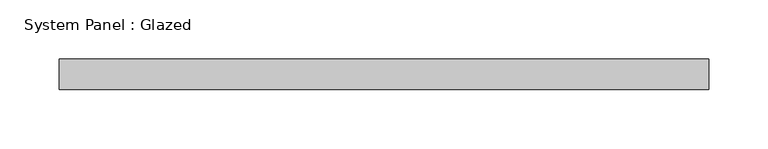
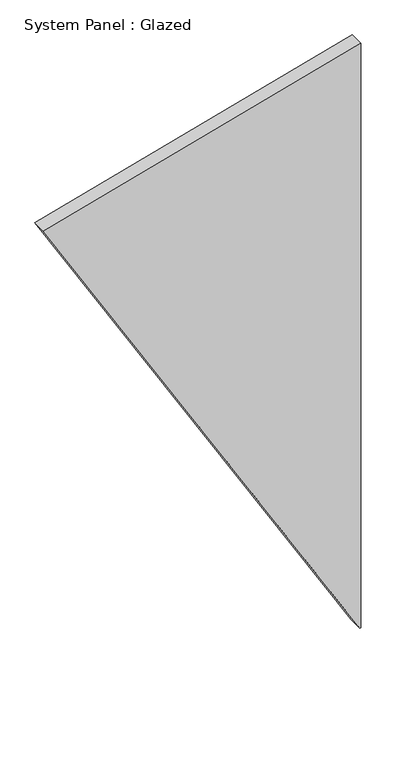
"""IFC4 building model written with IfcOpenShell, lengths in millimetres: plate geometry, System Panel : Glazed."""

from ifc_helpers import new_model, si_unit, frame, origin, place, context, project, spatial, polyline, outline, extrude, source, transform, mapped, element, save


def system_panel_glazed_0e92e8da(model_context):
    return source(origin(), model_context, "Body", "SweptSolid", [
        extrude(outline(polyline([(0.0, 271.9251701), (0.3608515, 273.2346389), (1064.6370152, 273.2256803), (914.0484316, -273.2346389), (0.0, 271.9251701)])), frame((0.0, -44.45, 0.0), z_axis=(0.0, 1.0, 0.0), x_axis=(0.0, 0.0, 1.0)), (0.0, 0.0, 1.0), 25.4),
    ])


if __name__ == "__main__":
    model = new_model("IFC4")
    model_context = context("Model", 3, world=origin())
    ifc_project = project(units=[si_unit("LENGTHUNIT", "METRE", prefix="MILLI")], contexts=[model_context])
    site = spatial("IfcSite", under=ifc_project)
    building = spatial("IfcBuilding", under=site)
    placement = place(None, origin())
    system_panel_glazed_shape = system_panel_glazed_0e92e8da(model_context)
    element("IfcPlate", 1, ObjectType="System Panel : Glazed", at=placement, inside=building, context=model_context, shape_type="MappedRepresentation", body=[
        mapped(system_panel_glazed_shape, transform((0.0, 0.0, 0.0), x_axis=(1.0, 0.0, 0.0), y_axis=(0.0, 1.0, 0.0), z_axis=(0.0, 0.0, 1.0))),
    ])
    save(model, "model.ifc")
